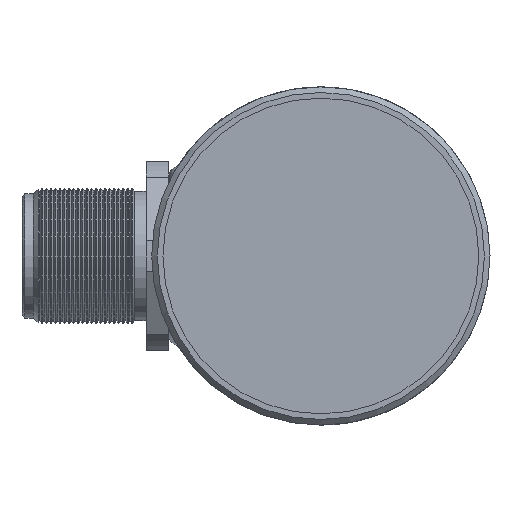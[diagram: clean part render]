
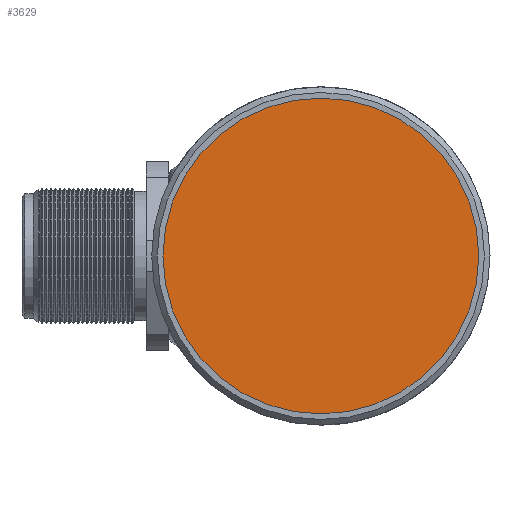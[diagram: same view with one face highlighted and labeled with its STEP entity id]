
A CAD part, left-side view. The second image highlights one B-rep face of the part: STEP entity #3629.
In plain terms, the highlighted planar face has unit normal (-1, 0, 0).
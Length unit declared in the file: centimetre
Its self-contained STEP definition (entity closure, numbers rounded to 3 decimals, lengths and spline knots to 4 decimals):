
#499=PLANE('',#3919);
#904=VERTEX_POINT('',#5149);
#1222=CIRCLE('',#3918,1.4);
#1419=EDGE_CURVE('',#904,#904,#1222,.T.);
#1943=ORIENTED_EDGE('',*,*,#1419,.T.);
#2870=EDGE_LOOP('',(#1943));
#3254=FACE_BOUND('',#2870,.T.);
#3629=ADVANCED_FACE('',(#3254),#499,.F.);
#3918=AXIS2_PLACEMENT_3D('',#5148,#4337,#4338);
#3919=AXIS2_PLACEMENT_3D('',#5150,#4339,$);
#4337=DIRECTION('',(-1.,0.,0.));
#4338=DIRECTION('',(0.,0.,-1.4));
#4339=DIRECTION('',(1.,0.,0.));
#5148=CARTESIAN_POINT('',(-4.4,0.,0.));
#5149=CARTESIAN_POINT('',(-4.4,0.,-1.4));
#5150=CARTESIAN_POINT('',(-4.4,0.,0.));
